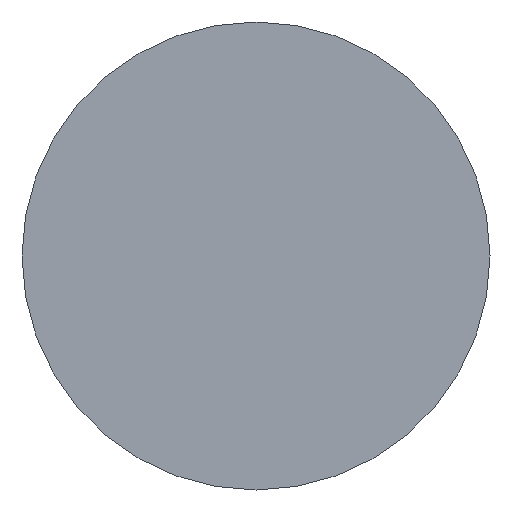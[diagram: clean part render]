
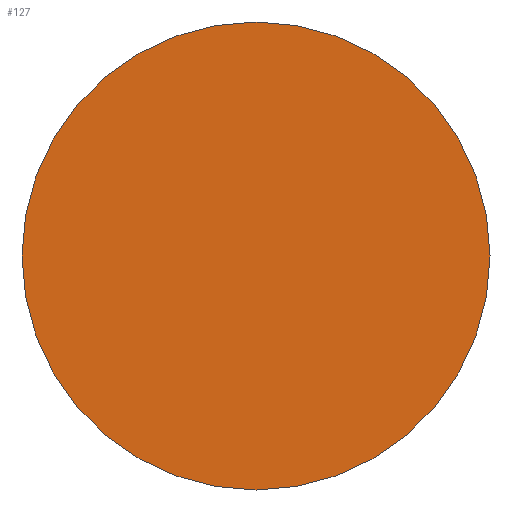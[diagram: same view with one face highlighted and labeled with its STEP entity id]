
A CAD part, left-side view. The second image highlights one B-rep face of the part: STEP entity #127.
In plain terms, the highlighted planar face has unit normal (-1, 0, 0).
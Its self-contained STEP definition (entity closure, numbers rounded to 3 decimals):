
#14 = ORIENTED_EDGE ( 'NONE', *, *, #72, .F. ) ;
#17 = PLANE ( 'NONE',  #81 ) ;
#21 = DIRECTION ( 'NONE',  ( 0., 1., 0. ) ) ;
#47 = CARTESIAN_POINT ( 'NONE',  ( 0., 0., 0. ) ) ;
#50 = AXIS2_PLACEMENT_3D ( 'NONE', #202, #125, #63 ) ;
#53 = EDGE_LOOP ( 'NONE', ( #14, #218 ) ) ;
#63 = DIRECTION ( 'NONE',  ( 0., 1., 0. ) ) ;
#72 = EDGE_CURVE ( 'NONE', #167, #119, #238, .T. ) ;
#81 = AXIS2_PLACEMENT_3D ( 'NONE', #84, #163, #141 ) ;
#84 = CARTESIAN_POINT ( 'NONE',  ( 0., 0., 0. ) ) ;
#119 = VERTEX_POINT ( 'NONE', #121 ) ;
#121 = CARTESIAN_POINT ( 'NONE',  ( 0., -4., 0. ) ) ;
#125 = DIRECTION ( 'NONE',  ( 1., 0., 0. ) ) ;
#127 = ADVANCED_FACE ( 'NONE', ( #185 ), #17, .T. ) ;
#141 = DIRECTION ( 'NONE',  ( 0., -1., 0. ) ) ;
#163 = DIRECTION ( 'NONE',  ( -1., 0., 0. ) ) ;
#167 = VERTEX_POINT ( 'NONE', #260 ) ;
#169 = DIRECTION ( 'NONE',  ( 1., 0., 0. ) ) ;
#185 = FACE_OUTER_BOUND ( 'NONE', #53, .T. ) ;
#200 = CIRCLE ( 'NONE', #219, 4. ) ;
#202 = CARTESIAN_POINT ( 'NONE',  ( 0., 0., 0. ) ) ;
#206 = EDGE_CURVE ( 'NONE', #119, #167, #200, .T. ) ;
#218 = ORIENTED_EDGE ( 'NONE', *, *, #206, .F. ) ;
#219 = AXIS2_PLACEMENT_3D ( 'NONE', #47, #169, #21 ) ;
#238 = CIRCLE ( 'NONE', #50, 4. ) ;
#260 = CARTESIAN_POINT ( 'NONE',  ( 0., 4., 0. ) ) ;
